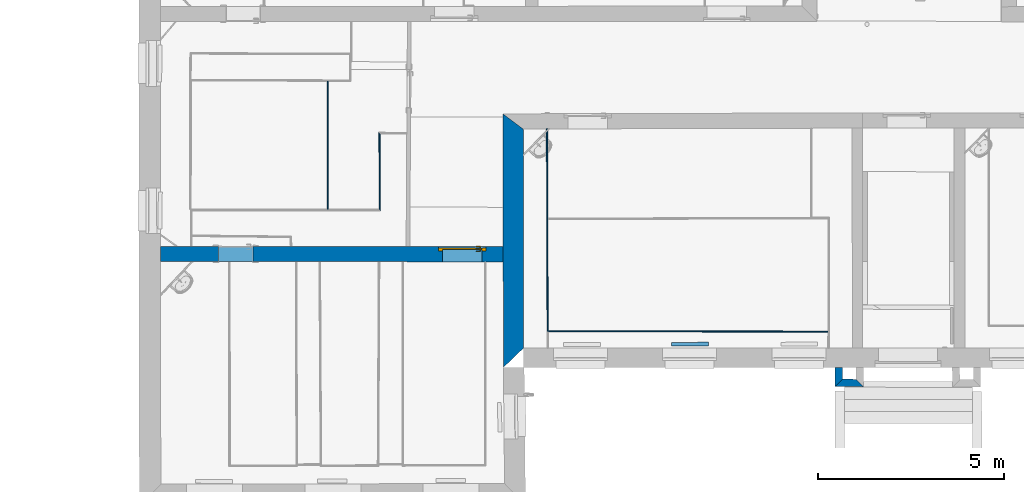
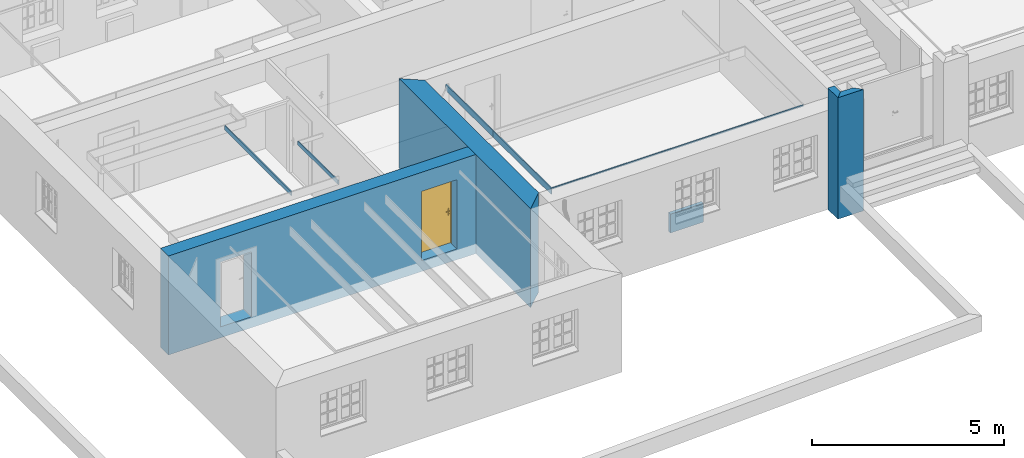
# One storey, part 20 of 196: 10 walls, 1 door, 2 openings.
"""IFC2X3 building model written with IfcOpenShell, lengths in metres."""

from ifc_helpers import new_model, entity, si_unit, converted_unit, derived_unit, money_unit, direction, frame, origin_with_axes, origin_2d_with_axis, place, context, subcontext, project, spatial, polyline, rectangle, outline, extrude, faceted_brep, source, transform, mapped, material, layer, layer_set, layer_usage, type_object, element, fill, save


model = new_model("IFC2X3")

# Units and contexts
model_context = context("Model", 3, precision=1e-05, world=origin_with_axes(), true_north=direction((0.0, 1.0)))
body_context = subcontext(model_context, "Body", "Model", "MODEL_VIEW")
ifc_project = project(units=[si_unit("LENGTHUNIT", "METRE"), si_unit("AREAUNIT", "SQUARE_METRE"), si_unit("VOLUMEUNIT", "CUBIC_METRE"), converted_unit("PLANEANGLEUNIT", "DEGREE", entity("IfcPlaneAngleMeasure", 0.0174532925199), si_unit("PLANEANGLEUNIT", "RADIAN"), dimensions=[0, 0, 0, 0, 0, 0, 0]), money_unit("EUR"), converted_unit("TIMEUNIT", "Year", entity("IfcTimeMeasure", 31556926.0), si_unit("TIMEUNIT", "SECOND"), dimensions=[0, 0, 1, 0, 0, 0, 0]), si_unit("MASSUNIT", "GRAM", prefix="KILO"), si_unit("THERMODYNAMICTEMPERATUREUNIT", "DEGREE_CELSIUS"), si_unit("LUMINOUSINTENSITYUNIT", "LUMEN"), si_unit("ENERGYUNIT", "JOULE", prefix="MEGA"), derived_unit("THERMALCONDUCTANCEUNIT", [(si_unit("POWERUNIT", "WATT"), 1), (si_unit("LENGTHUNIT", "METRE"), -1), (si_unit("THERMODYNAMICTEMPERATUREUNIT", "KELVIN"), -1)]), derived_unit("SPECIFICHEATCAPACITYUNIT", [(si_unit("ENERGYUNIT", "JOULE"), 1), (si_unit("MASSUNIT", "GRAM", prefix="KILO"), -1), (si_unit("THERMODYNAMICTEMPERATUREUNIT", "KELVIN"), -1)]), derived_unit("MASSDENSITYUNIT", [(si_unit("MASSUNIT", "GRAM", prefix="KILO"), 1), (si_unit("VOLUMEUNIT", "CUBIC_METRE"), -1)])], contexts=[model_context])

# Site, building, storey
site_placement = place(None, origin_with_axes())
site = spatial("IfcSite", under=ifc_project, at=site_placement, Name="Gelände", CompositionType="ELEMENT")
building_placement = place(site_placement, origin_with_axes())
building = spatial("IfcBuilding", under=site, at=building_placement, Name="Gebäude", CompositionType="ELEMENT")
storey_placement = place(building_placement, frame((0.0, 0.0, -3.0), z_axis=(0.0, 0.0, 1.0), x_axis=(1.0, 0.0, 0.0)))
storey = spatial("IfcBuildingStorey", under=building, at=storey_placement, Name="KELLERGESCHOSS", CompositionType="ELEMENT", Elevation=-3.0)

# Walls
ifc_material_1 = material(Name="05_ALLGEMEIN - TRAGENDE BAUTEILE")
ifc_layer_1 = layer(ifc_material_1, 0.2, ventilated="UNKNOWN")
ifc_layer_set_1 = layer_set([ifc_layer_1], Name="05_ALLGEMEIN - TRAGENDE BAUTEILE 0.2")
ifc_layer_usage_1 = layer_usage(ifc_layer_set_1, "AXIS2", "NEGATIVE", 0.2)
wall_type_1 = type_object("IfcWallType", Name="05_ALLGEMEIN - TRAGENDE BAUTEILE 200", PredefinedType="ELEMENTEDWALL")
wall_1_placement = place(storey_placement, frame((-9.36155281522, 9.93960727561, -0.36), z_axis=(0.0, 0.0, 1.0), x_axis=(0.00820433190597, -0.999966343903, 0.0)))
element("IfcWallStandardCase", 1, at=wall_1_placement, inside=storey, type_object=wall_type_1, material=ifc_layer_usage_1, Name="Wand-030", ObjectType="ELEMENTEDWALL", context=body_context, shape_type="SweptSolid", body=[
    extrude(outline(polyline([(0.0, 0.0), (0.515168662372, 0.0), (0.318463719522, 0.2), (0.0016258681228, 0.2), (0.0, 0.0)])), origin_with_axes(), (0.0, 0.0, 1.0), 3.861435),
])
ifc_material_2 = material(Name="43_Gipskarton")
ifc_layer_2 = layer(ifc_material_2, 0.03, ventilated="UNKNOWN")
ifc_layer_set_2 = layer_set([ifc_layer_2], Name="43_Gipskarton 0.03")
ifc_layer_usage_2 = layer_usage(ifc_layer_set_2, "AXIS2", "NEGATIVE", 0.0)
wall_type_2 = type_object("IfcWallType", Name="43_Gipskarton 30", PredefinedType="ELEMENTEDWALL")
wall_2_placement = place(storey_placement, frame((-23.0135370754, 17.6558408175, 2.28), z_axis=(0.0, 0.0, 1.0), x_axis=(-0.000424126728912, -0.999999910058, 0.0)))
element("IfcWallStandardCase", 2, at=wall_2_placement, inside=storey, type_object=wall_type_2, material=ifc_layer_usage_2, Name="Wand-053", ObjectType="ELEMENTEDWALL", context=body_context, shape_type="SweptSolid", body=[
    extrude(outline(polyline([(-8.08231805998e-05, -0.03), (3.45941808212, -0.03), (3.45941079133, 0.0), (0.0, 0.0), (-8.08231805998e-05, -0.03)])), origin_with_axes(), (0.0, 0.0, 1.0), 0.14),
])
ifc_layer_usage_3 = layer_usage(ifc_layer_set_2, "AXIS2", "NEGATIVE", 0.03)
wall_3_placement = place(storey_placement, frame((-21.6519868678, 16.273059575, 2.16), z_axis=(0.0, 0.0, 1.0), x_axis=(0.00565635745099, -0.999984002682, 0.0)))
element("IfcWallStandardCase", 3, at=wall_3_placement, inside=storey, type_object=wall_type_2, material=ifc_layer_usage_3, Name="Wand-055", ObjectType="ELEMENTEDWALL", context=body_context, shape_type="SweptSolid", body=[
    extrude(outline(polyline([(0.0, 0.0), (2.07691143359, 0.0), (2.10708707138, 0.03), (0.0304845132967, 0.03), (0.0, 0.0)])), origin_with_axes(), (0.0, 0.0, 1.0), 0.12),
])
ifc_layer_usage_4 = layer_usage(ifc_layer_set_2, "AXIS2", "NEGATIVE", 0.0)
wall_4_placement = place(storey_placement, frame((-17.0888684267, 10.9298152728, 2.41), z_axis=(0.0, 0.0, 1.0), x_axis=(0.999999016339, -0.00140261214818, 0.0)))
element("IfcWallStandardCase", 4, at=wall_4_placement, inside=storey, type_object=wall_type_2, material=ifc_layer_usage_4, Name="Wand-058", ObjectType="ELEMENTEDWALL", context=body_context, shape_type="SweptSolid", body=[
    extrude(outline(polyline([(-0.0298568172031, -0.03), (7.54232803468, -0.03), (7.5423449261, 0.0), (0.0, 0.0), (-0.0298568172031, -0.03)])), origin_with_axes(), (0.0, 0.0, 1.0), 0.03),
])
ifc_layer_usage_5 = layer_usage(ifc_layer_set_2, "AXIS2", "NEGATIVE", 0.0)
wall_5_placement = place(storey_placement, frame((-17.0990060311, 13.9277158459, 2.24), z_axis=(0.0, 0.0, 1.0), x_axis=(0.00338154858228, -0.999994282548, 0.0)))
element("IfcWallStandardCase", 5, at=wall_5_placement, inside=storey, type_object=wall_type_2, material=ifc_layer_usage_5, Name="Wand-059", ObjectType="ELEMENTEDWALL", context=body_context, shape_type="SweptSolid", body=[
    extrude(outline(polyline([(0.0, -0.03), (3.02777453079, -0.03), (2.99791771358, 0.0), (0.0, 0.0), (0.0, -0.03)])), origin_with_axes(), (0.0, 0.0, 1.0), 0.2),
])
ifc_layer_usage_6 = layer_usage(ifc_layer_set_2, "AXIS2", "NEGATIVE", 0.0)
wall_6_placement = place(storey_placement, frame((-17.1072549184, 16.36708348, 2.24), z_axis=(0.0, 0.0, 1.0), x_axis=(0.00338154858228, -0.999994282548, 0.0)))
element("IfcWallStandardCase", 6, at=wall_6_placement, inside=storey, type_object=wall_type_2, material=ifc_layer_usage_6, Name="Wand-059", ObjectType="ELEMENTEDWALL", context=body_context, shape_type="SweptSolid", body=[
    extrude(outline(polyline([(0.0, -0.03), (2.43938158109, -0.03), (2.43938158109, 0.0), (0.0, 0.0), (0.0, -0.03)])), origin_with_axes(), (0.0, 0.0, 1.0), 0.2),
])
ifc_material_3 = material(Name="01_ALLGEMEIN - BAUTEIL")
ifc_layer_3 = layer(ifc_material_3, 0.105, ventilated="UNKNOWN")
ifc_layer_set_3 = layer_set([ifc_layer_3], Name="01_ALLGEMEIN - BAUTEIL 0.105")
ifc_layer_usage_7 = layer_usage(ifc_layer_set_3, "AXIS2", "NEGATIVE", 0.105)
wall_type_3 = type_object("IfcWallType", Name="01_ALLGEMEIN - BAUTEIL 105", PredefinedType="ELEMENTEDWALL")
wall_7_placement = place(storey_placement, frame((-12.7637938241, 10.6178252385, 0.0805299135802), z_axis=(0.0, 0.0, 1.0), x_axis=(-0.999999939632, -0.000347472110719, 0.0)))
element("IfcWallStandardCase", 7, at=wall_7_placement, inside=storey, type_object=wall_type_3, material=ifc_layer_usage_7, Name="Wand-037", ObjectType="ELEMENTEDWALL", context=body_context, shape_type="SweptSolid", body=[
    extrude(outline(polyline([(0.0, 0.0), (0.99881456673, 0.0), (0.99881456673, 0.105), (0.0, 0.105), (0.0, 0.0)])), origin_with_axes(), (0.0, 0.0, 1.0), 0.597873),
])

# Wall, openings, door
ifc_layer_4 = layer(ifc_material_1, 0.41, ventilated="UNKNOWN")
ifc_layer_set_4 = layer_set([ifc_layer_4], Name="05_ALLGEMEIN - TRAGENDE BAUTEILE 0.41")
ifc_layer_usage_8 = layer_usage(ifc_layer_set_4, "AXIS2", "POSITIVE", -0.41)
wall_type_4 = type_object("IfcWallType", Name="05_ALLGEMEIN - TRAGENDE BAUTEILE 410", PredefinedType="ELEMENTEDWALL")
wall_8_placement = place(storey_placement, frame((-28.1163910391, 13.2058554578, -0.36), z_axis=(0.0, 0.0, 1.0), x_axis=(0.999999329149, -0.00115831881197, 0.0)))
wall_8 = element("IfcWallStandardCase", 8, at=wall_8_placement, inside=storey, type_object=wall_type_4, material=ifc_layer_usage_8, Name="Wand-037", ObjectType="ELEMENTEDWALL", context=body_context, shape_type="SweptSolid", body=[
    extrude(outline(polyline([(0.58085918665, -0.41), (9.81587771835, -0.41), (9.81460873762, 0.0), (0.580001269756, 0.0), (0.58085918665, -0.41)])), origin_with_axes(), (0.0, 0.0, 1.0), 3.15),
])
opening_1_placement = place(wall_8_placement, frame((2.60599601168, 0.0, 0.349034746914), z_axis=(0.0, 0.0, 1.0), x_axis=(1.0, 0.0, 0.0)))
element("IfcOpeningElement", 9, at=opening_1_placement, cuts=wall_8, Name="Tür-022", context=body_context, shape_type="SweptSolid", body=[
    extrude(rectangle(XDim=0.93260511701, YDim=2.062804, at=origin_2d_with_axis()), frame((0.0, -0.41, 1.031402), z_axis=(0.0, -1.0, 0.0), x_axis=(-1.0, 0.0, 0.0)), (0.0, 0.0, -1.0), 1.23),
])
opening_2_placement = place(wall_8_placement, frame((8.71472579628, 0.0, 0.347304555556), z_axis=(0.0, 0.0, 1.0), x_axis=(1.0, 0.0, 0.0)))
opening_2 = element("IfcOpeningElement", 10, at=opening_2_placement, cuts=wall_8, Name="Tür-022", context=body_context, shape_type="SweptSolid", body=[
    extrude(rectangle(XDim=1.06444475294, YDim=2.200287, at=origin_2d_with_axis()), frame((0.0, -0.12, 1.1001435), z_axis=(0.0, -1.0, 0.0), x_axis=(-1.0, 0.0, 0.0)), (0.0, 0.0, 1.0), 0.7),
    extrude(rectangle(XDim=1.28444475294, YDim=2.310287, at=origin_2d_with_axis()), frame((0.0, -0.04, 1.1551435), z_axis=(0.0, 1.0, 0.0), x_axis=(-1.0, 0.0, 0.0)), (0.0, 0.0, -1.0), 0.08),
    extrude(rectangle(XDim=1.28444475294, YDim=2.310287, at=origin_2d_with_axis()), frame((0.0, -0.04, 1.1551435), z_axis=(0.0, 1.0, 0.0), x_axis=(-1.0, 0.0, 0.0)), (0.0, 0.0, 1.0), 0.45),
])
door_style = type_object("IfcDoorStyle", Name="Blockrahmentür 1-Fl 25", ConstructionType="NOTDEFINED", OperationType="SINGLE_SWING_LEFT", ParameterTakesPrecedence=False, Sizeable=False)
shared_shape = source(origin_with_axes(), body_context, "Body", "Brep", [
    faceted_brep([(-0.642222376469, -0.08, 0.0), (-0.642222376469, -0.08, 2.310287), (-0.642222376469, -0.04, 2.310287), (-0.642222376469, -0.04, 0.0), (-0.532222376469, -0.08, 0.0), (-0.532222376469, -0.08, 2.200287), (-0.1121, -0.08, 2.200287), (-0.0001, -0.08, 2.200287), (0.532222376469, -0.08, 2.200287), (0.532222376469, -0.08, 0.0), (0.642222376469, -0.08, 0.0), (0.642222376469, -0.08, 2.310287), (0.642222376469, -0.04, 2.310287), (0.642222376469, -0.04, 0.0), (0.532222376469, -0.04, 0.0), (0.532222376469, -0.04, 2.200287), (-0.0001, -0.04, 2.200287), (-0.1121, -0.04, 2.200287), (-0.532222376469, -0.04, 2.200287), (-0.532222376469, -0.04, 0.0)], [[[0, 1, 2, 3]], [[0, 4, 5, 6, 7, 8, 9, 10, 11, 1]], [[1, 11, 12, 2]], [[3, 2, 12, 13, 14, 15, 16, 17, 18, 19]], [[4, 0, 3, 19]], [[5, 4, 19, 18]], [[6, 5, 18, 17]], [[7, 6, 17, 16]], [[8, 7, 16, 15]], [[9, 8, 15, 14]], [[10, 9, 14, 13]], [[11, 10, 13, 12]]]),
    faceted_brep([(-0.642222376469, -0.04, 0.0), (-0.642222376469, -0.04, 2.310287), (-0.642222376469, 0.0, 2.310287), (-0.642222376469, 0.0, 0.0), (-0.544222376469, -0.04, 0.0), (-0.544222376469, -0.04, 2.212287), (-0.1001, -0.04, 2.212287), (-0.0121, -0.04, 2.212287), (0.544222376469, -0.04, 2.212287), (0.544222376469, -0.04, 0.0), (0.642222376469, -0.04, 0.0), (0.642222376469, -0.04, 2.310287), (0.642222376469, 0.0, 2.310287), (0.642222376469, 0.0, 0.0), (0.544222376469, 0.0, 0.0), (0.544222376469, 0.0, 2.212287), (-0.0121, 0.0, 2.212287), (-0.1001, 0.0, 2.212287), (-0.544222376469, 0.0, 2.212287), (-0.544222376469, 0.0, 0.0)], [[[0, 1, 2, 3]], [[0, 4, 5, 6, 7, 8, 9, 10, 11, 1]], [[1, 11, 12, 2]], [[3, 2, 12, 13, 14, 15, 16, 17, 18, 19]], [[4, 0, 3, 19]], [[5, 4, 19, 18]], [[6, 5, 18, 17]], [[7, 6, 17, 16]], [[8, 7, 16, 15]], [[9, 8, 15, 14]], [[10, 9, 14, 13]], [[11, 10, 13, 12]]]),
    faceted_brep([(-0.544222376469, -0.004, 0.0), (-0.544222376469, -0.004, 2.212287), (0.544222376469, -0.004, 2.212287), (0.544222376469, -0.004, 0.0), (-0.544222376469, -0.04, 0.0), (-0.544222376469, -0.04, 2.212287), (0.544222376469, -0.04, 2.212287), (0.544222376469, -0.04, 0.0)], [[[0, 1, 2, 3]], [[0, 4, 5, 1]], [[1, 5, 6, 2]], [[2, 6, 7, 3]], [[3, 7, 4, 0]], [[7, 6, 5, 4]]]),
    faceted_brep([(0.488924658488, -0.08, 1.05647213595), (0.488924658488, -0.06, 1.05647213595), (0.484222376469, -0.06, 1.058), (0.484222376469, -0.08, 1.058), (0.4918308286, -0.08, 1.05247213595), (0.4918308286, -0.06, 1.05247213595), (0.490100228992, -0.058, 1.05809016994), (0.484222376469, -0.058, 1.06), (0.479520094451, -0.06, 1.05647213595), (0.479520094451, -0.08, 1.05647213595), (0.476613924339, -0.08, 1.05247213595), (0.476613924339, -0.08, 1.04752786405), (0.479520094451, -0.08, 1.04352786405), (0.484222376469, -0.08, 1.042), (0.488924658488, -0.08, 1.04352786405), (0.4918308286, -0.08, 1.04752786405), (0.4918308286, -0.06, 1.04752786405), (0.493732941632, -0.058, 1.05309016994), (0.490100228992, -0.05, 1.05809016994), (0.484222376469, -0.05, 1.06), (0.478344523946, -0.058, 1.05809016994), (0.476613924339, -0.06, 1.05247213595), (0.476613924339, -0.06, 1.04752786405), (0.479520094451, -0.06, 1.04352786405), (0.484222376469, -0.06, 1.042), (0.488924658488, -0.06, 1.04352786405), (0.493732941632, -0.058, 1.04690983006), (0.493732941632, -0.05, 1.05309016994), (0.493732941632, -0.05, 1.04690983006), (0.490100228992, -0.05, 1.04190983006), (0.484222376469, -0.05, 1.04), (0.478344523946, -0.05, 1.04190983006), (0.474711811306, -0.05, 1.04690983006), (0.474711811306, -0.05, 1.05309016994), (0.478344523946, -0.05, 1.05809016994), (0.474711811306, -0.058, 1.05309016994), (0.474711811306, -0.058, 1.04690983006), (0.478344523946, -0.058, 1.04190983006), (0.484222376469, -0.058, 1.04), (0.490100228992, -0.058, 1.04190983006)], [[[0, 1, 2, 3]], [[4, 5, 1, 0]], [[1, 6, 7, 2]], [[3, 2, 8, 9]], [[3, 9, 10, 11, 12, 13, 14, 15, 4, 0]], [[15, 16, 5, 4]], [[5, 17, 6, 1]], [[6, 18, 19, 7]], [[2, 7, 20, 8]], [[9, 8, 21, 10]], [[10, 21, 22, 11]], [[11, 22, 23, 12]], [[12, 23, 24, 13]], [[13, 24, 25, 14]], [[14, 25, 16, 15]], [[16, 26, 17, 5]], [[17, 27, 18, 6]], [[19, 18, 27, 28, 29, 30, 31, 32, 33, 34]], [[7, 19, 34, 20]], [[8, 20, 35, 21]], [[21, 35, 36, 22]], [[22, 36, 37, 23]], [[23, 37, 38, 24]], [[24, 38, 39, 25]], [[25, 39, 26, 16]], [[26, 28, 27, 17]], [[39, 29, 28, 26]], [[38, 30, 29, 39]], [[37, 31, 30, 38]], [[36, 32, 31, 37]], [[35, 33, 32, 36]], [[20, 34, 33, 35]]]),
    faceted_brep([(0.472033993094, -0.05, 1.11759695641), (0.467422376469, -0.05, 1.11), (0.461722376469, -0.05, 1.11), (0.461722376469, -0.05, 0.89), (0.467422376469, -0.05, 0.89), (0.472033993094, -0.05, 0.882403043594), (0.479778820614, -0.05, 0.878044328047), (0.488665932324, -0.05, 0.878044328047), (0.496410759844, -0.05, 0.882403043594), (0.501022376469, -0.05, 0.89), (0.506722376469, -0.05, 0.89), (0.506722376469, -0.05, 1.11), (0.501022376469, -0.05, 1.11), (0.496410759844, -0.05, 1.11759695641), (0.488665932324, -0.05, 1.12195567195), (0.479778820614, -0.05, 1.12195567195), (0.484222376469, -0.05, 0.967425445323), (0.489597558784, -0.05, 0.965143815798), (0.491690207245, -0.05, 0.959692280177), (0.489222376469, -0.05, 0.9544), (0.489222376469, -0.05, 0.9375), (0.487757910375, -0.05, 0.933964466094), (0.484222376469, -0.05, 0.9325), (0.480686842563, -0.05, 0.933964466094), (0.479222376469, -0.05, 0.9375), (0.479222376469, -0.05, 0.9544), (0.476754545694, -0.05, 0.959692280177), (0.478847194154, -0.05, 0.965143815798), (0.472033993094, -0.04, 1.11759695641), (0.467422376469, -0.04, 1.11), (0.461722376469, -0.04, 1.11), (0.461722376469, -0.04, 0.89), (0.467422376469, -0.04, 0.89), (0.472033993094, -0.04, 0.882403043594), (0.479778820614, -0.04, 0.878044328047), (0.488665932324, -0.04, 0.878044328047), (0.496410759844, -0.04, 0.882403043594), (0.501022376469, -0.04, 0.89), (0.506722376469, -0.04, 0.89), (0.506722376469, -0.04, 1.11), (0.501022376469, -0.04, 1.11), (0.496410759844, -0.04, 1.11759695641), (0.488665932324, -0.04, 1.12195567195), (0.479778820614, -0.04, 1.12195567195), (0.484222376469, -0.04, 0.967425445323), (0.489597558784, -0.04, 0.965143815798), (0.491690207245, -0.04, 0.959692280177), (0.489222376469, -0.04, 0.9544), (0.489222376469, -0.04, 0.9375), (0.487757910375, -0.04, 0.933964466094), (0.484222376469, -0.04, 0.9325), (0.480686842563, -0.04, 0.933964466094), (0.479222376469, -0.04, 0.9375), (0.479222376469, -0.04, 0.9544), (0.476754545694, -0.04, 0.959692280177), (0.478847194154, -0.04, 0.965143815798)], [[[0, 1, 2, 3, 4, 5, 6, 7, 8, 9, 10, 11, 12, 13, 14, 15], [16, 17, 18, 19, 20, 21, 22, 23, 24, 25, 26, 27]], [[0, 28, 29, 1]], [[1, 29, 30, 2]], [[2, 30, 31, 3]], [[3, 31, 32, 4]], [[4, 32, 33, 5]], [[5, 33, 34, 6]], [[6, 34, 35, 7]], [[7, 35, 36, 8]], [[8, 36, 37, 9]], [[9, 37, 38, 10]], [[10, 38, 39, 11]], [[11, 39, 40, 12]], [[12, 40, 41, 13]], [[13, 41, 42, 14]], [[14, 42, 43, 15]], [[15, 43, 28, 0]], [[16, 44, 45, 17]], [[17, 45, 46, 18]], [[18, 46, 47, 19]], [[47, 48, 20, 19]], [[21, 20, 48, 49]], [[22, 21, 49, 50]], [[23, 22, 50, 51]], [[24, 23, 51, 52]], [[25, 24, 52, 53]], [[25, 53, 54, 26]], [[26, 54, 55, 27]], [[27, 55, 44, 16]], [[32, 31, 30, 29, 28, 43, 42, 41, 40, 39, 38, 37, 36, 35, 34, 33], [46, 45, 44, 55, 54, 53, 52, 51, 50, 49, 48, 47]]]),
    faceted_brep([(0.369969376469, -0.08, 1.057158), (0.369967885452, -0.08, 1.05719388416), (0.369967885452, -0.095, 1.05719388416), (0.369969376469, -0.095, 1.057158), (0.39699700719, -0.08, 1.06432652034), (0.424825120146, -0.08, 1.06706086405), (0.452731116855, -0.08, 1.06529002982), (0.479990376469, -0.08, 1.05906), (0.486392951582, -0.08, 1.05976125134), (0.491895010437, -0.08, 1.05641280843), (0.49421388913, -0.08, 1.05040385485), (0.492387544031, -0.08, 1.04422735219), (0.487173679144, -0.08, 1.04044577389), (0.480735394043, -0.08, 1.04062800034), (0.475743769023, -0.08, 1.04469843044), (0.475764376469, -0.08, 1.044666), (0.450475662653, -0.08, 1.05019878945), (0.424633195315, -0.08, 1.05171460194), (0.398871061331, -0.08, 1.04917624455), (0.373821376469, -0.08, 1.042646), (0.368278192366, -0.08, 1.04356849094), (0.364916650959, -0.08, 1.04807159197), (0.365608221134, -0.08, 1.05364829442), (0.365608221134, -0.095, 1.05364829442), (0.364916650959, -0.095, 1.04807159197), (0.368278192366, -0.095, 1.04356849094), (0.373821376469, -0.095, 1.042646), (0.398871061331, -0.095, 1.04917624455), (0.424633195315, -0.095, 1.05171460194), (0.450475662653, -0.095, 1.05019878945), (0.475764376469, -0.095, 1.044666), (0.475743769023, -0.095, 1.04469843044), (0.480735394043, -0.095, 1.04062800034), (0.487173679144, -0.095, 1.04044577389), (0.492387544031, -0.095, 1.04422735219), (0.49421388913, -0.095, 1.05040385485), (0.491895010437, -0.095, 1.05641280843), (0.486392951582, -0.095, 1.05976125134), (0.479990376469, -0.095, 1.05906), (0.452731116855, -0.095, 1.06529002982), (0.424825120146, -0.095, 1.06706086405), (0.39699700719, -0.095, 1.06432652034)], [[[0, 1, 2, 3]], [[0, 4, 5, 6, 7, 8, 9, 10, 11, 12, 13, 14, 15, 16, 17, 18, 19, 20, 21, 22, 1]], [[1, 22, 23, 2]], [[3, 2, 23, 24, 25, 26, 27, 28, 29, 30, 31, 32, 33, 34, 35, 36, 37, 38, 39, 40, 41]], [[4, 0, 3, 41]], [[5, 4, 41, 40]], [[6, 5, 40, 39]], [[7, 6, 39, 38]], [[8, 7, 38, 37]], [[9, 8, 37, 36]], [[10, 9, 36, 35]], [[11, 10, 35, 34]], [[12, 11, 34, 33]], [[13, 12, 33, 32]], [[14, 13, 32, 31]], [[15, 14, 31, 30]], [[16, 15, 30, 29]], [[17, 16, 29, 28]], [[18, 17, 28, 27]], [[19, 18, 27, 26]], [[20, 19, 26, 25]], [[21, 20, 25, 24]], [[22, 21, 24, 23]]]),
    faceted_brep([(0.488924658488, 0.036, 1.05647213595), (0.484222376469, 0.036, 1.058), (0.484222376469, 0.016, 1.058), (0.488924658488, 0.016, 1.05647213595), (0.4918308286, 0.036, 1.05247213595), (0.4918308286, 0.036, 1.04752786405), (0.488924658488, 0.036, 1.04352786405), (0.484222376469, 0.036, 1.042), (0.479520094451, 0.036, 1.04352786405), (0.476613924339, 0.036, 1.04752786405), (0.476613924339, 0.036, 1.05247213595), (0.479520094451, 0.036, 1.05647213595), (0.479520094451, 0.016, 1.05647213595), (0.484222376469, 0.014, 1.06), (0.490100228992, 0.014, 1.05809016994), (0.4918308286, 0.016, 1.05247213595), (0.4918308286, 0.016, 1.04752786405), (0.488924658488, 0.016, 1.04352786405), (0.484222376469, 0.016, 1.042), (0.479520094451, 0.016, 1.04352786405), (0.476613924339, 0.016, 1.04752786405), (0.476613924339, 0.016, 1.05247213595), (0.478344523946, 0.014, 1.05809016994), (0.484222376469, 0.006, 1.06), (0.490100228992, 0.006, 1.05809016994), (0.493732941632, 0.014, 1.05309016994), (0.493732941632, 0.014, 1.04690983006), (0.490100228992, 0.014, 1.04190983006), (0.484222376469, 0.014, 1.04), (0.478344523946, 0.014, 1.04190983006), (0.474711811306, 0.014, 1.04690983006), (0.474711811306, 0.014, 1.05309016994), (0.478344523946, 0.006, 1.05809016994), (0.474711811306, 0.006, 1.05309016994), (0.474711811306, 0.006, 1.04690983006), (0.478344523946, 0.006, 1.04190983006), (0.484222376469, 0.006, 1.04), (0.490100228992, 0.006, 1.04190983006), (0.493732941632, 0.006, 1.04690983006), (0.493732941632, 0.006, 1.05309016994)], [[[0, 1, 2, 3]], [[1, 0, 4, 5, 6, 7, 8, 9, 10, 11]], [[1, 11, 12, 2]], [[3, 2, 13, 14]], [[4, 0, 3, 15]], [[5, 4, 15, 16]], [[6, 5, 16, 17]], [[7, 6, 17, 18]], [[8, 7, 18, 19]], [[9, 8, 19, 20]], [[10, 9, 20, 21]], [[11, 10, 21, 12]], [[2, 12, 22, 13]], [[14, 13, 23, 24]], [[15, 3, 14, 25]], [[16, 15, 25, 26]], [[17, 16, 26, 27]], [[18, 17, 27, 28]], [[19, 18, 28, 29]], [[20, 19, 29, 30]], [[21, 20, 30, 31]], [[12, 21, 31, 22]], [[13, 22, 32, 23]], [[23, 32, 33, 34, 35, 36, 37, 38, 39, 24]], [[25, 14, 24, 39]], [[26, 25, 39, 38]], [[27, 26, 38, 37]], [[28, 27, 37, 36]], [[29, 28, 36, 35]], [[30, 29, 35, 34]], [[31, 30, 34, 33]], [[22, 31, 33, 32]]]),
    faceted_brep([(0.472033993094, -0.004, 1.11759695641), (0.467422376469, -0.004, 1.11), (0.461722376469, -0.004, 1.11), (0.461722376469, -0.004, 0.89), (0.467422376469, -0.004, 0.89), (0.472033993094, -0.004, 0.882403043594), (0.479778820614, -0.004, 0.878044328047), (0.488665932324, -0.004, 0.878044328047), (0.496410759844, -0.004, 0.882403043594), (0.501022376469, -0.004, 0.89), (0.506722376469, -0.004, 0.89), (0.506722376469, -0.004, 1.11), (0.501022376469, -0.004, 1.11), (0.496410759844, -0.004, 1.11759695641), (0.488665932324, -0.004, 1.12195567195), (0.479778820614, -0.004, 1.12195567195), (0.484222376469, -0.004, 0.967425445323), (0.489597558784, -0.004, 0.965143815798), (0.491690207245, -0.004, 0.959692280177), (0.489222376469, -0.004, 0.9544), (0.489222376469, -0.004, 0.9375), (0.487757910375, -0.004, 0.933964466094), (0.484222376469, -0.004, 0.9325), (0.480686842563, -0.004, 0.933964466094), (0.479222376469, -0.004, 0.9375), (0.479222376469, -0.004, 0.9544), (0.476754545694, -0.004, 0.959692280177), (0.478847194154, -0.004, 0.965143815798), (0.472033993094, 0.006, 1.11759695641), (0.467422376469, 0.006, 1.11), (0.461722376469, 0.006, 1.11), (0.461722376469, 0.006, 0.89), (0.467422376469, 0.006, 0.89), (0.472033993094, 0.006, 0.882403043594), (0.479778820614, 0.006, 0.878044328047), (0.488665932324, 0.006, 0.878044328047), (0.496410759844, 0.006, 0.882403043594), (0.501022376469, 0.006, 0.89), (0.506722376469, 0.006, 0.89), (0.506722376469, 0.006, 1.11), (0.501022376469, 0.006, 1.11), (0.496410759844, 0.006, 1.11759695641), (0.488665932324, 0.006, 1.12195567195), (0.479778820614, 0.006, 1.12195567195), (0.484222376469, 0.006, 0.967425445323), (0.489597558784, 0.006, 0.965143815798), (0.491690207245, 0.006, 0.959692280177), (0.489222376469, 0.006, 0.9544), (0.489222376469, 0.006, 0.9375), (0.487757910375, 0.006, 0.933964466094), (0.484222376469, 0.006, 0.9325), (0.480686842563, 0.006, 0.933964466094), (0.479222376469, 0.006, 0.9375), (0.479222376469, 0.006, 0.9544), (0.476754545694, 0.006, 0.959692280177), (0.478847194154, 0.006, 0.965143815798)], [[[0, 1, 2, 3, 4, 5, 6, 7, 8, 9, 10, 11, 12, 13, 14, 15], [16, 17, 18, 19, 20, 21, 22, 23, 24, 25, 26, 27]], [[28, 29, 1, 0]], [[29, 30, 2, 1]], [[30, 31, 3, 2]], [[31, 32, 4, 3]], [[32, 33, 5, 4]], [[33, 34, 6, 5]], [[34, 35, 7, 6]], [[35, 36, 8, 7]], [[36, 37, 9, 8]], [[37, 38, 10, 9]], [[38, 39, 11, 10]], [[39, 40, 12, 11]], [[40, 41, 13, 12]], [[41, 42, 14, 13]], [[42, 43, 15, 14]], [[43, 28, 0, 15]], [[16, 44, 45, 17]], [[17, 45, 46, 18]], [[18, 46, 47, 19]], [[47, 48, 20, 19]], [[21, 20, 48, 49]], [[22, 21, 49, 50]], [[23, 22, 50, 51]], [[24, 23, 51, 52]], [[25, 24, 52, 53]], [[25, 53, 54, 26]], [[26, 54, 55, 27]], [[27, 55, 44, 16]], [[32, 31, 30, 29, 28, 43, 42, 41, 40, 39, 38, 37, 36, 35, 34, 33], [46, 45, 44, 55, 54, 53, 52, 51, 50, 49, 48, 47]]]),
    faceted_brep([(0.369969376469, 0.036, 1.057158), (0.369969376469, 0.051, 1.057158), (0.369967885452, 0.051, 1.05719388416), (0.369967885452, 0.036, 1.05719388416), (0.39699700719, 0.036, 1.06432652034), (0.39699700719, 0.051, 1.06432652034), (0.424825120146, 0.051, 1.06706086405), (0.452731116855, 0.051, 1.06529002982), (0.479990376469, 0.051, 1.05906), (0.486392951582, 0.051, 1.05976125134), (0.491895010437, 0.051, 1.05641280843), (0.49421388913, 0.051, 1.05040385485), (0.492387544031, 0.051, 1.04422735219), (0.487173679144, 0.051, 1.04044577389), (0.480735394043, 0.051, 1.04062800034), (0.475743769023, 0.051, 1.04469843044), (0.475764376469, 0.051, 1.044666), (0.450475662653, 0.051, 1.05019878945), (0.424633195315, 0.051, 1.05171460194), (0.398871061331, 0.051, 1.04917624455), (0.373821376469, 0.051, 1.042646), (0.368278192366, 0.051, 1.04356849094), (0.364916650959, 0.051, 1.04807159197), (0.365608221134, 0.051, 1.05364829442), (0.365608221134, 0.036, 1.05364829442), (0.364916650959, 0.036, 1.04807159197), (0.368278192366, 0.036, 1.04356849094), (0.373821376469, 0.036, 1.042646), (0.398871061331, 0.036, 1.04917624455), (0.424633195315, 0.036, 1.05171460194), (0.450475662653, 0.036, 1.05019878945), (0.475764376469, 0.036, 1.044666), (0.475743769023, 0.036, 1.04469843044), (0.480735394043, 0.036, 1.04062800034), (0.487173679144, 0.036, 1.04044577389), (0.492387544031, 0.036, 1.04422735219), (0.49421388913, 0.036, 1.05040385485), (0.491895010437, 0.036, 1.05641280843), (0.486392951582, 0.036, 1.05976125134), (0.479990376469, 0.036, 1.05906), (0.452731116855, 0.036, 1.06529002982), (0.424825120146, 0.036, 1.06706086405)], [[[0, 1, 2, 3]], [[4, 5, 1, 0]], [[1, 5, 6, 7, 8, 9, 10, 11, 12, 13, 14, 15, 16, 17, 18, 19, 20, 21, 22, 23, 2]], [[3, 2, 23, 24]], [[0, 3, 24, 25, 26, 27, 28, 29, 30, 31, 32, 33, 34, 35, 36, 37, 38, 39, 40, 41, 4]], [[41, 6, 5, 4]], [[40, 7, 6, 41]], [[39, 8, 7, 40]], [[38, 9, 8, 39]], [[37, 10, 9, 38]], [[36, 11, 10, 37]], [[35, 12, 11, 36]], [[34, 13, 12, 35]], [[33, 14, 13, 34]], [[32, 15, 14, 33]], [[31, 16, 15, 32]], [[30, 17, 16, 31]], [[29, 18, 17, 30]], [[28, 19, 18, 29]], [[27, 20, 19, 28]], [[26, 21, 20, 27]], [[25, 22, 21, 26]], [[24, 23, 22, 25]]]),
])
door_placement = place(opening_2_placement, frame((-0.532222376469, 0.0, 0.0), z_axis=(0.0, 0.0, 1.0), x_axis=(1.0, 0.0, 0.0)))
door = element("IfcDoor", 11, at=door_placement, inside=storey, type_object=door_style, Name="Tür-022", ObjectType="NOTDEFINED", OverallHeight=2.31029, OverallWidth=1.28444, context=body_context, shape_type="MappedRepresentation", body=[
    mapped(shared_shape, transform((0.532222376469, -0.04, 0.0))),
])
fill(opening_2, door)

# Walls
ifc_layer_5 = layer(ifc_material_3, 0.2, ventilated="UNKNOWN")
ifc_layer_set_5 = layer_set([ifc_layer_5], Name="01_ALLGEMEIN - BAUTEIL 0.2")
ifc_layer_usage_9 = layer_usage(ifc_layer_set_5, "AXIS2", "NEGATIVE", 0.2)
wall_type_5 = type_object("IfcWallType", Name="01_ALLGEMEIN - BAUTEIL 200", PredefinedType="ELEMENTEDWALL")
wall_9_placement = place(storey_placement, frame((-9.35732620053, 9.42445595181, -0.36), z_axis=(0.0, 0.0, 1.0), x_axis=(0.999964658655, -0.00840722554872, 0.0)))
element("IfcWallStandardCase", 12, at=wall_9_placement, inside=storey, type_object=wall_type_5, material=ifc_layer_usage_9, Name="Wand-031", ObjectType="ELEMENTEDWALL", context=body_context, shape_type="SweptSolid", body=[
    extrude(outline(polyline([(0.0, 0.0), (0.7654923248, 0.0), (0.563788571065, 0.2), (0.196704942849, 0.2), (0.0, 0.0)])), origin_with_axes(), (0.0, 0.0, 1.0), 3.861435),
])
ifc_layer_6 = layer(ifc_material_1, 0.547, ventilated="UNKNOWN")
ifc_layer_set_6 = layer_set([ifc_layer_6], Name="05_ALLGEMEIN - TRAGENDE BAUTEILE 0.547")
ifc_layer_usage_10 = layer_usage(ifc_layer_set_6, "AXIS2", "NEGATIVE", 0.547)
wall_type_6 = type_object("IfcWallType", Name="05_ALLGEMEIN - TRAGENDE BAUTEILE 547", PredefinedType="ELEMENTEDWALL")
wall_10_placement = place(storey_placement, frame((-17.748482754, 9.93897605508, -0.36), z_axis=(0.0, 0.0, 1.0), x_axis=(-0.00193674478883, 0.999998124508, 0.0)))
element("IfcWallStandardCase", 13, at=wall_10_placement, inside=storey, type_object=wall_type_6, material=ifc_layer_usage_10, Name="Wand-037", ObjectType="ELEMENTEDWALL", context=body_context, shape_type="SweptSolid", body=[
    extrude(outline(polyline([(0.525000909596, 0.0), (6.42641057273, 0.0), (6.83604004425, 0.547), (0.00101823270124, 0.547), (0.525000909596, 0.0)])), origin_with_axes(), (0.0, 0.0, 1.0), 3.15),
])

save(model, "model.ifc")
